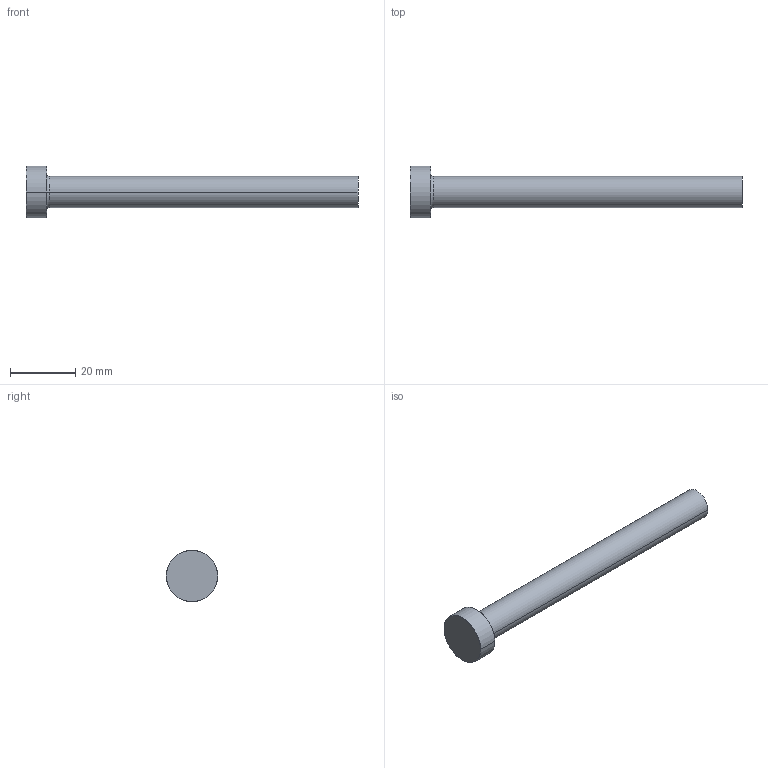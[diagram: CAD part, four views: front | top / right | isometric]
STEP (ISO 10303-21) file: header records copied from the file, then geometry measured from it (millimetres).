
FILE_DESCRIPTION (( 'STEP AP214' ), '1' );
FILE_NAME ('P25-4.STEP', '2020-03-12T09:54:58', ( '' ), ( '' ), 'SwSTEP 2.0', 'SolidWorks 2018', '' );
FILE_SCHEMA (( 'AUTOMOTIVE_DESIGN' ));
Length unit declared in the file: inch
Products named in the file (1): P25-4
Bounding box: 101.6 x 15.88 x 15.88 mm (x, y, z)
Volume: 8036.5 mm3; surface area: 3545 mm2
Topology: 1 solids, 1 shells, 13 faces, 24 edges, 14 vertices
Faces by surface type: cone 4, cylinder 4, plane 3, torus 2
Entity records: 366 total; most frequent: DIRECTION 68, CARTESIAN_POINT 52, ORIENTED_EDGE 48, AXIS2_PLACEMENT_3D 30, EDGE_CURVE 24, CIRCLE 16, EDGE_LOOP 14, VERTEX_POINT 14
